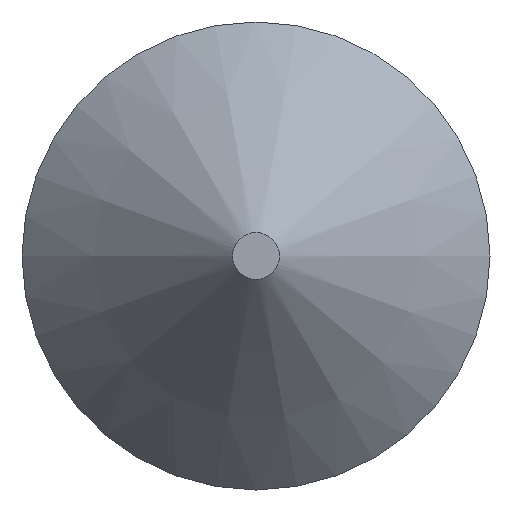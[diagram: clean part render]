
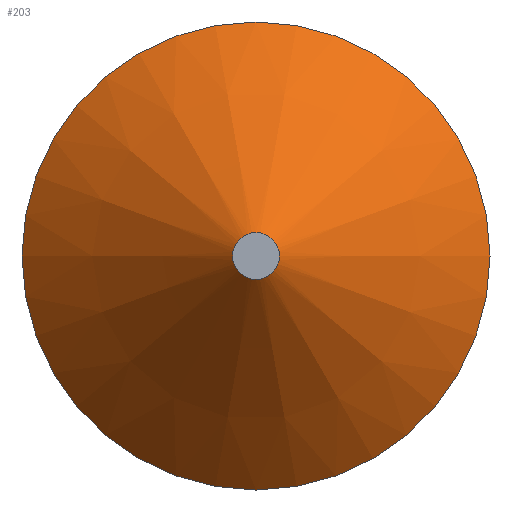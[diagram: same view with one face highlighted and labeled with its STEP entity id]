
A CAD part, left-side view. The second image highlights one B-rep face of the part: STEP entity #203.
In plain terms, the highlighted conical face has half-angle 45 degrees and reference radius 0.825 mm.
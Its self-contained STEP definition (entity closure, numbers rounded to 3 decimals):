
#34=FACE_OUTER_BOUND('',#47,.T.);
#47=EDGE_LOOP('',(#159,#160,#161,#162,#163));
#64=LINE('',#337,#80);
#80=VECTOR('',#281,0.825);
#91=CIRCLE('',#240,1.5);
#92=CIRCLE('',#241,1.5);
#93=CIRCLE('',#244,0.15);
#97=VERTEX_POINT('',#317);
#98=VERTEX_POINT('',#319);
#105=VERTEX_POINT('',#336);
#118=EDGE_CURVE('',#98,#97,#91,.T.);
#119=EDGE_CURVE('',#97,#98,#92,.T.);
#126=EDGE_CURVE('',#98,#105,#64,.T.);
#127=EDGE_CURVE('',#105,#105,#93,.T.);
#159=ORIENTED_EDGE('',*,*,#118,.T.);
#160=ORIENTED_EDGE('',*,*,#119,.T.);
#161=ORIENTED_EDGE('',*,*,#126,.T.);
#162=ORIENTED_EDGE('',*,*,#127,.T.);
#163=ORIENTED_EDGE('',*,*,#126,.F.);
#198=CONICAL_SURFACE('',#243,0.825,0.785);
#203=ADVANCED_FACE('',(#34),#198,.T.);
#240=AXIS2_PLACEMENT_3D('',#320,#267,#268);
#241=AXIS2_PLACEMENT_3D('',#321,#269,#270);
#243=AXIS2_PLACEMENT_3D('',#335,#279,#280);
#244=AXIS2_PLACEMENT_3D('',#338,#282,#283);
#267=DIRECTION('center_axis',(-1.,0.,0.));
#268=DIRECTION('ref_axis',(0.,-1.,0.));
#269=DIRECTION('center_axis',(-1.,0.,0.));
#270=DIRECTION('ref_axis',(0.,-1.,0.));
#279=DIRECTION('center_axis',(1.,0.,0.));
#280=DIRECTION('ref_axis',(0.,-1.,0.));
#281=DIRECTION('',(-0.707,-0.707,0.));
#282=DIRECTION('center_axis',(1.,0.,0.));
#283=DIRECTION('ref_axis',(0.,-1.,0.));
#317=CARTESIAN_POINT('',(1.35,-1.5,0.));
#319=CARTESIAN_POINT('',(1.35,1.5,0.));
#320=CARTESIAN_POINT('Origin',(1.35,0.,0.));
#321=CARTESIAN_POINT('Origin',(1.35,0.,0.));
#335=CARTESIAN_POINT('Origin',(0.675,0.,0.));
#336=CARTESIAN_POINT('',(0.,0.15,0.));
#337=CARTESIAN_POINT('',(0.675,0.825,0.));
#338=CARTESIAN_POINT('Origin',(0.,0.,0.));
